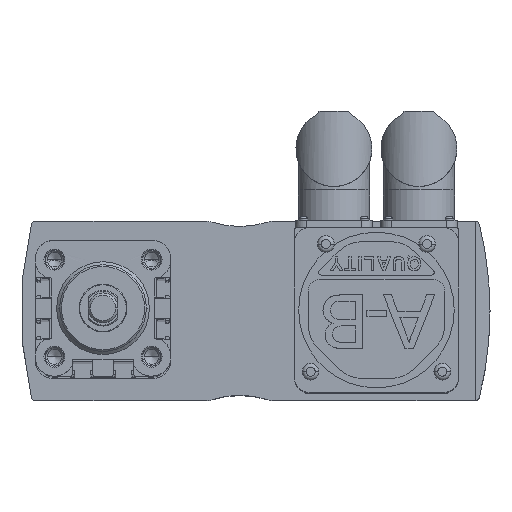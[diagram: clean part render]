
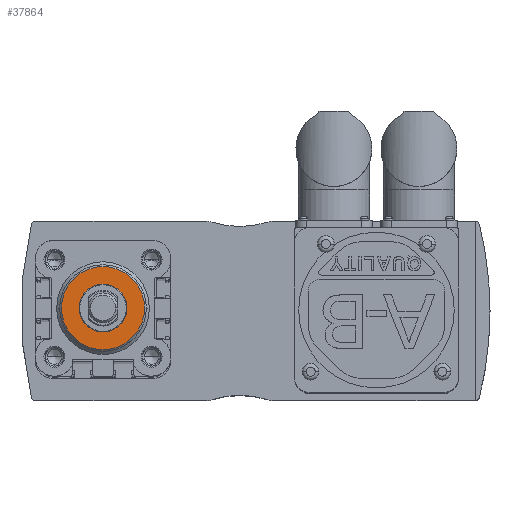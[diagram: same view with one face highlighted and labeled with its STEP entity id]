
A CAD part, top view. The second image highlights one B-rep face of the part: STEP entity #37864.
In plain terms, the highlighted planar face has unit normal (0, 0, 1).
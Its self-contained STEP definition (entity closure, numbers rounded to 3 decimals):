
#1291 = DIRECTION ( 'NONE',  ( -1., 0., 0. ) ) ;
#3519 = DIRECTION ( 'NONE',  ( -1., 0., 0. ) ) ;
#4090 = FACE_OUTER_BOUND ( 'NONE', #16927, .T. ) ;
#4124 = CIRCLE ( 'NONE', #42089, 8. ) ;
#4376 = CIRCLE ( 'NONE', #40496, 13.9 ) ;
#9663 = ORIENTED_EDGE ( 'NONE', *, *, #36665, .T. ) ;
#9687 = ORIENTED_EDGE ( 'NONE', *, *, #10642, .T. ) ;
#10642 = EDGE_CURVE ( 'NONE', #19704, #22947, #32306, .T. ) ;
#12148 = DIRECTION ( 'NONE',  ( 1., 0., 0. ) ) ;
#13094 = ORIENTED_EDGE ( 'NONE', *, *, #13837, .T. ) ;
#13117 = CARTESIAN_POINT ( 'NONE',  ( 8., 0., 17.5 ) ) ;
#13694 = VERTEX_POINT ( 'NONE', #38367 ) ;
#13837 = EDGE_CURVE ( 'NONE', #21068, #13694, #43607, .T. ) ;
#14657 = DIRECTION ( 'NONE',  ( 0., 0., 1. ) ) ;
#16927 = EDGE_LOOP ( 'NONE', ( #13094, #36378 ) ) ;
#18161 = CARTESIAN_POINT ( 'NONE',  ( 0., 0., 17.5 ) ) ;
#18879 = CARTESIAN_POINT ( 'NONE',  ( -8., 0., 17.5 ) ) ;
#19704 = VERTEX_POINT ( 'NONE', #18879 ) ;
#20605 = EDGE_CURVE ( 'NONE', #13694, #21068, #4376, .T. ) ;
#20956 = CARTESIAN_POINT ( 'NONE',  ( -13.9, 0., 17.5 ) ) ;
#21068 = VERTEX_POINT ( 'NONE', #20956 ) ;
#21745 = DIRECTION ( 'NONE',  ( -1., 0., 0. ) ) ;
#22410 = DIRECTION ( 'NONE',  ( 0., 0., -1. ) ) ;
#22637 = CARTESIAN_POINT ( 'NONE',  ( 0., 6.95, 17.5 ) ) ;
#22947 = VERTEX_POINT ( 'NONE', #13117 ) ;
#24609 = DIRECTION ( 'NONE',  ( 0., 0., -1. ) ) ;
#29423 = AXIS2_PLACEMENT_3D ( 'NONE', #45680, #24609, #3519 ) ;
#32306 = CIRCLE ( 'NONE', #29423, 8. ) ;
#32983 = AXIS2_PLACEMENT_3D ( 'NONE', #22637, #33235, #12148 ) ;
#33235 = DIRECTION ( 'NONE',  ( 0., 0., 1. ) ) ;
#34565 = AXIS2_PLACEMENT_3D ( 'NONE', #18161, #42796, #21745 ) ;
#35745 = CARTESIAN_POINT ( 'NONE',  ( 0., 0., 17.5 ) ) ;
#36378 = ORIENTED_EDGE ( 'NONE', *, *, #20605, .T. ) ;
#36665 = EDGE_CURVE ( 'NONE', #22947, #19704, #4124, .T. ) ;
#37864 = ADVANCED_FACE ( 'NONE', ( #41535, #4090 ), #40164, .T. ) ;
#38367 = CARTESIAN_POINT ( 'NONE',  ( 13.9, 0., 17.5 ) ) ;
#39012 = EDGE_LOOP ( 'NONE', ( #9687, #9663 ) ) ;
#39275 = DIRECTION ( 'NONE',  ( -1., 0., 0. ) ) ;
#40164 = PLANE ( 'NONE',  #32983 ) ;
#40496 = AXIS2_PLACEMENT_3D ( 'NONE', #35745, #14657, #39275 ) ;
#41535 = FACE_BOUND ( 'NONE', #39012, .T. ) ;
#42089 = AXIS2_PLACEMENT_3D ( 'NONE', #43460, #22410, #1291 ) ;
#42796 = DIRECTION ( 'NONE',  ( 0., 0., 1. ) ) ;
#43460 = CARTESIAN_POINT ( 'NONE',  ( 0., 0., 17.5 ) ) ;
#43607 = CIRCLE ( 'NONE', #34565, 13.9 ) ;
#45680 = CARTESIAN_POINT ( 'NONE',  ( 0., 0., 17.5 ) ) ;
